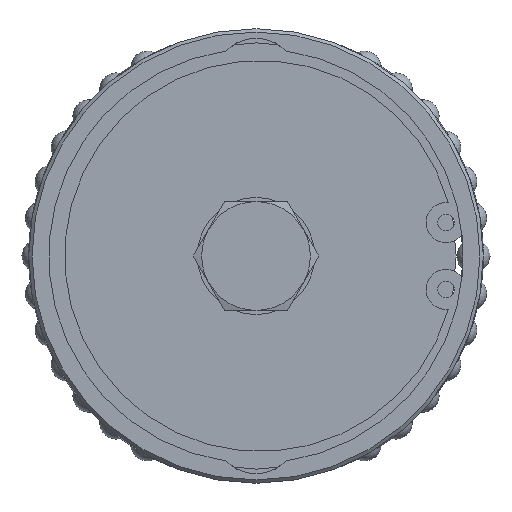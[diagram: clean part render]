
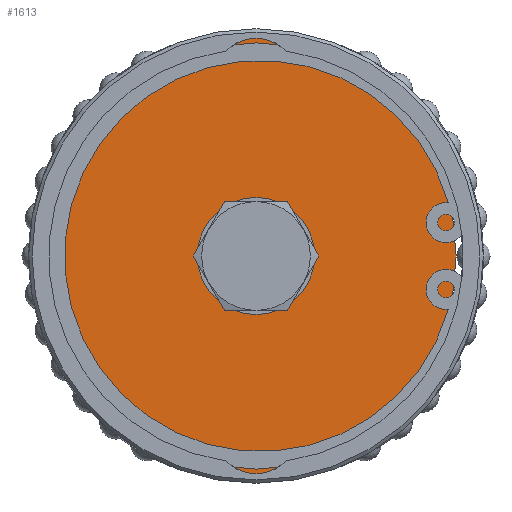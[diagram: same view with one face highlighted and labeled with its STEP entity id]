
A CAD part, left-side view. The second image highlights one B-rep face of the part: STEP entity #1613.
In plain terms, the highlighted planar face has unit normal (-1, 0, 0).
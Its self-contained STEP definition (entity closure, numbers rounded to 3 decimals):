
#203=FACE_BOUND('',#481,.T.);
#219=PLANE('',#1799);
#316=FACE_OUTER_BOUND('',#480,.T.);
#480=EDGE_LOOP('',(#1284,#1285,#1286,#1287));
#481=EDGE_LOOP('',(#1288));
#660=CIRCLE('',#1786,6.);
#661=CIRCLE('',#1788,4.9);
#663=CIRCLE('',#1791,23.95);
#665=CIRCLE('',#1794,4.9);
#667=CIRCLE('',#1797,23.95);
#785=VERTEX_POINT('',#4481);
#786=VERTEX_POINT('',#4485);
#787=VERTEX_POINT('',#4486);
#790=VERTEX_POINT('',#4494);
#792=VERTEX_POINT('',#4500);
#953=EDGE_CURVE('',#785,#785,#660,.T.);
#954=EDGE_CURVE('',#786,#787,#661,.T.);
#958=EDGE_CURVE('',#787,#790,#663,.T.);
#961=EDGE_CURVE('',#790,#792,#665,.T.);
#964=EDGE_CURVE('',#792,#786,#667,.T.);
#1284=ORIENTED_EDGE('',*,*,#964,.T.);
#1285=ORIENTED_EDGE('',*,*,#954,.T.);
#1286=ORIENTED_EDGE('',*,*,#958,.T.);
#1287=ORIENTED_EDGE('',*,*,#961,.T.);
#1288=ORIENTED_EDGE('',*,*,#953,.T.);
#1613=ADVANCED_FACE('',(#316,#203),#219,.T.);
#1786=AXIS2_PLACEMENT_3D('',#4483,#2114,#2115);
#1788=AXIS2_PLACEMENT_3D('',#4487,#2118,#2119);
#1791=AXIS2_PLACEMENT_3D('',#4495,#2126,#2127);
#1794=AXIS2_PLACEMENT_3D('',#4501,#2133,#2134);
#1797=AXIS2_PLACEMENT_3D('',#4506,#2140,#2141);
#1799=AXIS2_PLACEMENT_3D('',#4508,#2144,#2145);
#2114=DIRECTION('center_axis',(1.,0.,0.));
#2115=DIRECTION('ref_axis',(0.,0.,-1.));
#2118=DIRECTION('center_axis',(-1.,0.,0.));
#2119=DIRECTION('ref_axis',(0.,-0.87,0.493));
#2126=DIRECTION('center_axis',(-1.,0.,0.));
#2127=DIRECTION('ref_axis',(0.,0.178,0.984));
#2133=DIRECTION('center_axis',(-1.,0.,0.));
#2134=DIRECTION('ref_axis',(0.,0.87,-0.493));
#2140=DIRECTION('center_axis',(-1.,0.,0.));
#2141=DIRECTION('ref_axis',(0.,-0.178,-0.984));
#2144=DIRECTION('center_axis',(-1.,0.,0.));
#2145=DIRECTION('ref_axis',(0.,0.,1.));
#4481=CARTESIAN_POINT('',(26.667,0.,6.));
#4483=CARTESIAN_POINT('Origin',(26.667,0.,0.));
#4485=CARTESIAN_POINT('',(26.667,-4.262,23.568));
#4486=CARTESIAN_POINT('',(26.667,4.262,23.568));
#4487=CARTESIAN_POINT('Origin',(26.667,0.,21.15));
#4494=CARTESIAN_POINT('',(26.667,4.262,-23.568));
#4495=CARTESIAN_POINT('Origin',(26.667,0.,0.));
#4500=CARTESIAN_POINT('',(26.667,-4.262,-23.568));
#4501=CARTESIAN_POINT('Origin',(26.667,0.,-21.15));
#4506=CARTESIAN_POINT('Origin',(26.667,0.,0.));
#4508=CARTESIAN_POINT('Origin',(26.667,0.,0.));
